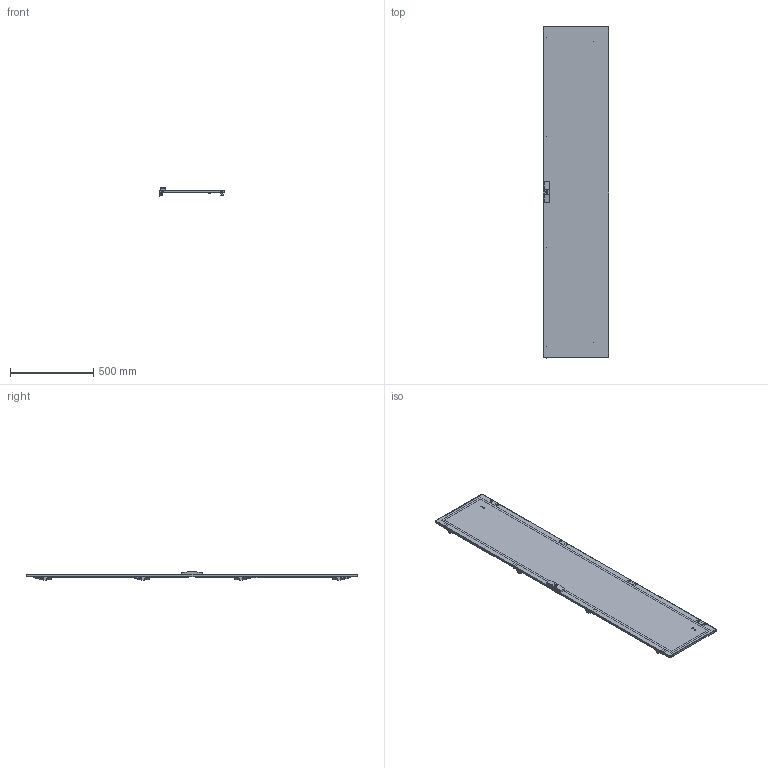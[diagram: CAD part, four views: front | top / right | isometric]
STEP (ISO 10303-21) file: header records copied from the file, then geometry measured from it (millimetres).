
FILE_DESCRIPTION (( 'STEP AP214' ), '1' );
FILE_NAME ('YKM40D-FO-DM-200-040 Äâåðü ìåòàëëè÷åñêàÿ 2000õ400ìì.STEP', '2025-09-29T10:47:21', ( '' ), ( '' ), 'SwSTEP 2.0', 'SolidWorks 2023', '' );
FILE_SCHEMA (( 'AUTOMOTIVE_DESIGN' ));
Length unit declared in the file: millimetre
Products named in the file (4): Петля закреп; Дверь металлическая 2000x400 мм; Петли для замка 400; YKM40D-FO-DM-200-040 Дверь металлическая 2000х400мм
Assembly tree (3 placements, depth 2):
  YKM40D-FO-DM-200-040 Дверь металлическая 2000х400мм
    Дверь металлическая 2000x400 мм
    Петля закреп
    Петли для замка 400
Bounding box: 395 x 1992.6 x 52.38 mm (x, y, z)
Volume: 2092590.8 mm3; surface area: 1846266.1 mm2
Topology: 9 solids, 11 shells, 1456 faces, 3680 edges, 2356 vertices
Faces by surface type: plane 785, cylinder 499, cone 172
Entity records: 44927 total; most frequent: CARTESIAN_POINT 8806, DIRECTION 7672, ORIENTED_EDGE 7360, EDGE_CURVE 3680, AXIS2_PLACEMENT_3D 2662, VERTEX_POINT 2356, VECTOR 2348, LINE 2348
